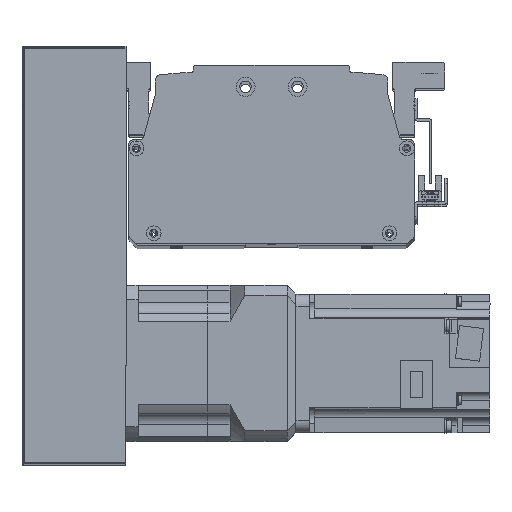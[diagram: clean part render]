
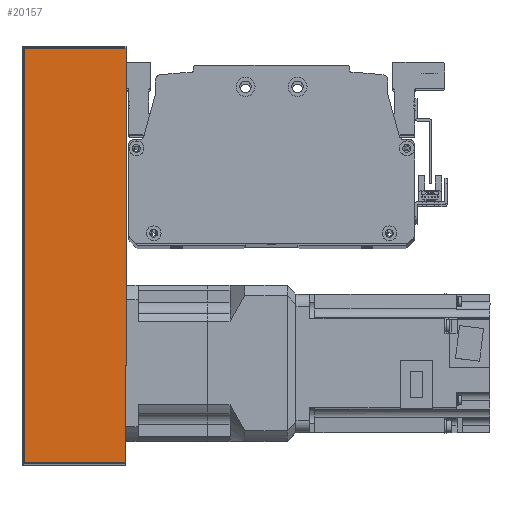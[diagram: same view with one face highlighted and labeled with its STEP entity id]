
A CAD part, top view. The second image highlights one B-rep face of the part: STEP entity #20157.
In plain terms, the highlighted planar face has unit normal (0, 0, 1) as drawn and (0, 1, 0) by its records, which use the part's own axes.
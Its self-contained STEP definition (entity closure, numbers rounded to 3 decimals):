
#595=PLANE('',#21995);
#1723=LINE('',#32405,#3383);
#1745=LINE('',#32498,#3405);
#1747=LINE('',#32508,#3407);
#1749=LINE('',#32511,#3409);
#3383=VECTOR('',#26232,10.);
#3405=VECTOR('',#26352,10.);
#3407=VECTOR('',#26366,10.);
#3409=VECTOR('',#26370,10.);
#5412=FACE_OUTER_BOUND('',#6860,.T.);
#6860=EDGE_LOOP('',(#16366,#16367,#16368,#16369));
#9750=VERTEX_POINT('',#32402);
#9751=VERTEX_POINT('',#32404);
#9772=VERTEX_POINT('',#32492);
#9775=VERTEX_POINT('',#32504);
#12120=EDGE_CURVE('',#9750,#9751,#1723,.T.);
#12168=EDGE_CURVE('',#9772,#9750,#1745,.T.);
#12173=EDGE_CURVE('',#9751,#9775,#1747,.T.);
#12175=EDGE_CURVE('',#9775,#9772,#1749,.T.);
#16366=ORIENTED_EDGE('',*,*,#12168,.F.);
#16367=ORIENTED_EDGE('',*,*,#12175,.F.);
#16368=ORIENTED_EDGE('',*,*,#12173,.F.);
#16369=ORIENTED_EDGE('',*,*,#12120,.F.);
#20157=ADVANCED_FACE('',(#5412),#595,.T.);
#21995=AXIS2_PLACEMENT_3D('',#32517,#26378,#26379);
#26232=DIRECTION('',(-1.,0.,0.));
#26352=DIRECTION('',(0.,0.,1.));
#26366=DIRECTION('',(0.,0.,-1.));
#26370=DIRECTION('',(1.,0.,0.));
#26378=DIRECTION('center_axis',(0.,1.,0.));
#26379=DIRECTION('ref_axis',(-1.,0.,0.));
#32402=CARTESIAN_POINT('',(120.,51.,30.));
#32404=CARTESIAN_POINT('',(-120.,51.,30.));
#32405=CARTESIAN_POINT('',(-121.,51.,30.));
#32492=CARTESIAN_POINT('',(120.,51.,-29.));
#32498=CARTESIAN_POINT('',(120.,51.,0.));
#32504=CARTESIAN_POINT('',(-120.,51.,-29.));
#32508=CARTESIAN_POINT('',(-120.,51.,0.));
#32511=CARTESIAN_POINT('',(60.5,51.,-29.));
#32517=CARTESIAN_POINT('Origin',(121.,51.,0.));
